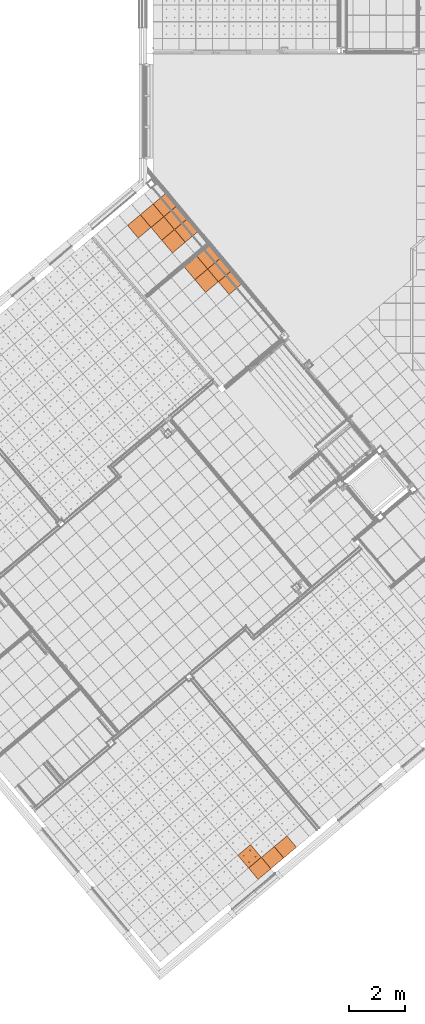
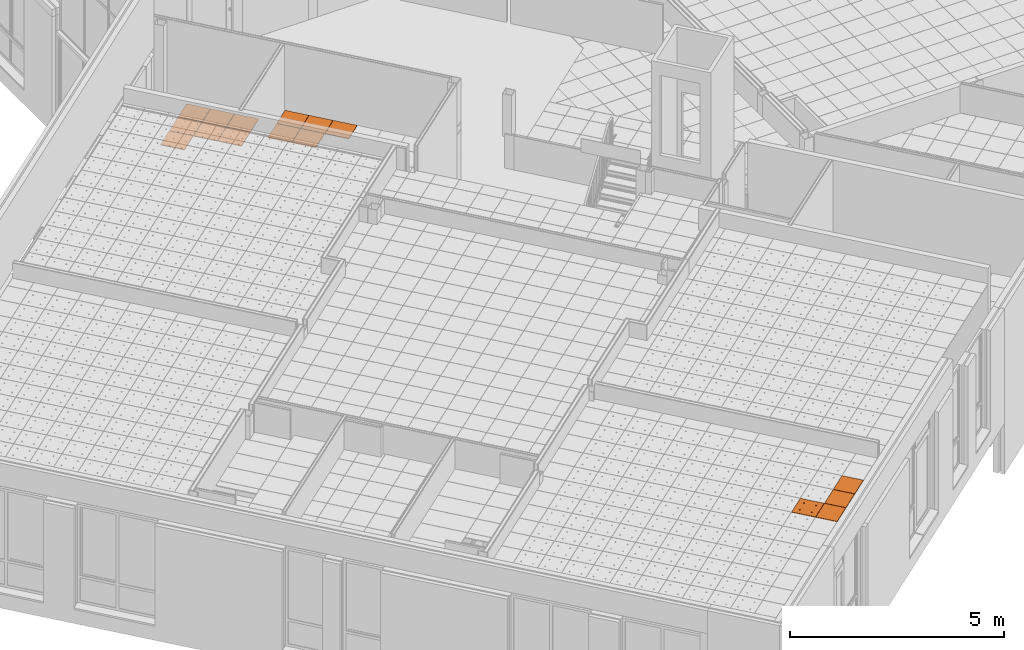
# One storey, part 179 of 338: 16 proxies, 3 elements without a shape of their own.
"""IFC2X3 building model written with IfcOpenShell, lengths in millimetres."""

from ifc_helpers import new_model, entity, si_unit, converted_unit, derived_unit, money_unit, direction, frame, origin_with_axes, place, context, subcontext, project, spatial, faceted_brep, source, transform, mapped, material, type_object, type_shapes, element, aggregate, save


model = new_model("IFC2X3")

# Units and contexts
model_context = context("Model", 3, precision=0.01, world=origin_with_axes(), true_north=direction((0.0, 1.0)))
plan_context = context("Plan", 3, precision=0.01, world=origin_with_axes(), true_north=direction((0.0, 1.0)))
body_context = subcontext(model_context, "Body", "Model", "MODEL_VIEW")
ifc_project = project(units=[si_unit("LENGTHUNIT", "METRE", prefix="MILLI"), si_unit("AREAUNIT", "SQUARE_METRE"), si_unit("VOLUMEUNIT", "CUBIC_METRE"), converted_unit("PLANEANGLEUNIT", "DEGREE", entity("IfcPlaneAngleMeasure", 0.0174532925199), si_unit("PLANEANGLEUNIT", "RADIAN"), dimensions=[0, 0, 0, 0, 0, 0, 0]), money_unit("EUR"), converted_unit("TIMEUNIT", "Year", entity("IfcTimeMeasure", 31556926.0), si_unit("TIMEUNIT", "SECOND"), dimensions=[0, 0, 1, 0, 0, 0, 0]), si_unit("MASSUNIT", "GRAM", prefix="KILO"), si_unit("THERMODYNAMICTEMPERATUREUNIT", "DEGREE_CELSIUS"), si_unit("LUMINOUSINTENSITYUNIT", "LUMEN"), si_unit("ENERGYUNIT", "JOULE", prefix="MEGA"), derived_unit("THERMALCONDUCTANCEUNIT", [(si_unit("POWERUNIT", "WATT"), 1), (si_unit("LENGTHUNIT", "METRE"), -1), (si_unit("THERMODYNAMICTEMPERATUREUNIT", "KELVIN"), -1)]), derived_unit("SPECIFICHEATCAPACITYUNIT", [(si_unit("ENERGYUNIT", "JOULE"), 1), (si_unit("MASSUNIT", "GRAM", prefix="KILO"), -1), (si_unit("THERMODYNAMICTEMPERATUREUNIT", "KELVIN"), -1)]), derived_unit("MASSDENSITYUNIT", [(si_unit("MASSUNIT", "GRAM", prefix="KILO"), 1), (si_unit("VOLUMEUNIT", "CUBIC_METRE"), -1)])], contexts=[model_context, plan_context])

# Site, building, storey
site_placement = place(None, origin_with_axes())
site = spatial("IfcSite", under=ifc_project, at=site_placement, Name="Fortuinstraat Woensdrecht", CompositionType="ELEMENT")
building_placement = place(site_placement, origin_with_axes())
building = spatial("IfcBuilding", under=site, at=building_placement, Name="IKC Fortuna", CompositionType="ELEMENT")
storey_placement = place(building_placement, origin_with_axes())
storey = spatial("IfcBuildingStorey", under=building, at=storey_placement, Name="00 begane grond", CompositionType="ELEMENT", Elevation=0.0)

# Covering, proxy
covering_type = type_object("IfcCoveringType", Name="Curtain Wall Type", PredefinedType="CEILING")
covering_1_placement = place(storey_placement, frame((15150.6418133, -6622.13986243, 4660.0), z_axis=(0.0, 0.0, 1.0), x_axis=(1.0, 0.0, 0.0)))
covering_1 = element("IfcCovering", 1, at=covering_1_placement, inside=storey, type_object=covering_type, Name="45_Plafondafwerking_P01", PredefinedType="CEILING")
ifc_material = material(Name="Gipsplaat")
building_element_proxy_type_1 = type_object("IfcBuildingElementProxyType", Name="Main Panel 600 x 600 x 20", PredefinedType="NOTDEFINED")
shared_shape_1 = source(origin_with_axes(), body_context, "Body", "Brep", [
    faceted_brep([(2.49999999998, 2.49999999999, -10.0), (300.0, 2.49999999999, -10.0), (300.0, 2.49999999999, 10.0), (2.49999999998, 2.49999999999, 10.0), (2.49999999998, 300.0, -10.0), (2.49999999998, 597.5, -10.0), (300.0, 597.5, -10.0), (597.5, 597.5, -10.0), (597.5, 300.0, -10.0), (597.5, 2.49999999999, -10.0), (166.25, 450.06232995, -10.0), (165.79423259, 452.64711538, -10.0), (164.896546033, 455.11348892, -10.0), (163.58421608, 457.38651108, -10.0), (161.897117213, 459.39711721, -10.0), (159.886511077, 461.08421608, -10.0), (157.613488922, 462.39654603, -10.0), (155.147115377, 463.29423259, -10.0), (152.562329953, 463.75, -10.0), (149.937670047, 463.75, -10.0), (147.352884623, 463.29423259, -10.0), (144.886511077, 462.39654603, -10.0), (142.613488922, 461.08421608, -10.0), (140.602882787, 459.39711721, -10.0), (138.91578392, 457.38651108, -10.0), (137.603453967, 455.11348892, -10.0), (136.705767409, 452.64711538, -10.0), (136.25, 450.06232995, -10.0), (136.25, 448.75, -10.0), (136.25, 447.43767005, -10.0), (136.705767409, 444.85288462, -10.0), (137.603453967, 442.38651108, -10.0), (138.91578392, 440.11348892, -10.0), (140.602882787, 438.10288279, -10.0), (142.613488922, 436.41578392, -10.0), (144.886511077, 435.10345397, -10.0), (147.352884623, 434.20576741, -10.0), (149.937670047, 433.75, -10.0), (152.562329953, 433.75, -10.0), (155.147115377, 434.20576741, -10.0), (157.613488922, 435.10345397, -10.0), (159.886511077, 436.41578392, -10.0), (161.897117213, 438.10288279, -10.0), (163.58421608, 440.11348892, -10.0), (164.896546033, 442.38651108, -10.0), (165.79423259, 444.85288462, -10.0), (166.25, 447.43767005, -10.0), (463.75, 450.06232995, -10.0), (463.29423259, 452.64711538, -10.0), (462.396546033, 455.11348892, -10.0), (461.08421608, 457.38651108, -10.0), (459.397117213, 459.39711721, -10.0), (457.386511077, 461.08421608, -10.0), (455.113488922, 462.39654603, -10.0), (452.647115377, 463.29423259, -10.0), (450.062329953, 463.75, -10.0), (447.437670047, 463.75, -10.0), (444.852884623, 463.29423259, -10.0), (442.386511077, 462.39654603, -10.0), (440.113488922, 461.08421608, -10.0), (438.102882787, 459.39711721, -10.0), (436.41578392, 457.38651108, -10.0), (435.103453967, 455.11348892, -10.0), (434.205767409, 452.64711538, -10.0), (433.75, 450.06232995, -10.0), (433.75, 448.75, -10.0), (433.75, 447.43767005, -10.0), (434.205767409, 444.85288462, -10.0), (435.103453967, 442.38651108, -10.0), (436.41578392, 440.11348892, -10.0), (438.102882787, 438.10288279, -10.0), (440.113488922, 436.41578392, -10.0), (442.386511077, 435.10345397, -10.0), (444.852884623, 434.20576741, -10.0), (447.437670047, 433.75, -10.0), (450.062329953, 433.75, -10.0), (452.647115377, 434.20576741, -10.0), (455.113488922, 435.10345397, -10.0), (457.386511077, 436.41578392, -10.0), (459.397117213, 438.10288279, -10.0), (461.08421608, 440.11348892, -10.0), (462.396546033, 442.38651108, -10.0), (463.29423259, 444.85288462, -10.0), (463.75, 447.43767005, -10.0), (463.75, 152.56232995, -10.0), (463.29423259, 155.14711538, -10.0), (462.396546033, 157.61348892, -10.0), (461.08421608, 159.88651108, -10.0), (459.397117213, 161.89711721, -10.0), (457.386511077, 163.58421608, -10.0), (455.113488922, 164.89654603, -10.0), (452.647115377, 165.79423259, -10.0), (450.062329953, 166.25, -10.0), (447.437670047, 166.25, -10.0), (444.852884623, 165.79423259, -10.0), (442.386511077, 164.89654603, -10.0), (440.113488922, 163.58421608, -10.0), (438.102882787, 161.89711721, -10.0), (436.41578392, 159.88651108, -10.0), (435.103453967, 157.61348892, -10.0), (434.205767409, 155.14711538, -10.0), (433.75, 152.56232995, -10.0), (433.75, 151.25, -10.0), (433.75, 149.93767005, -10.0), (434.205767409, 147.35288462, -10.0), (435.103453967, 144.88651108, -10.0), (436.41578392, 142.61348892, -10.0), (438.102882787, 140.60288279, -10.0), (440.113488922, 138.91578392, -10.0), (442.386511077, 137.60345397, -10.0), (444.852884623, 136.70576741, -10.0), (447.437670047, 136.25, -10.0), (450.062329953, 136.25, -10.0), (452.647115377, 136.70576741, -10.0), (455.113488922, 137.60345397, -10.0), (457.386511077, 138.91578392, -10.0), (459.397117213, 140.60288279, -10.0), (461.08421608, 142.61348892, -10.0), (462.396546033, 144.88651108, -10.0), (463.29423259, 147.35288462, -10.0), (463.75, 149.93767005, -10.0), (166.25, 152.56232995, -10.0), (165.79423259, 155.14711538, -10.0), (164.896546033, 157.61348892, -10.0), (163.58421608, 159.88651108, -10.0), (161.897117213, 161.89711721, -10.0), (159.886511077, 163.58421608, -10.0), (157.613488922, 164.89654603, -10.0), (155.147115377, 165.79423259, -10.0), (152.562329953, 166.25, -10.0), (149.937670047, 166.25, -10.0), (147.352884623, 165.79423259, -10.0), (144.886511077, 164.89654603, -10.0), (142.613488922, 163.58421608, -10.0), (140.602882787, 161.89711721, -10.0), (138.91578392, 159.88651108, -10.0), (137.603453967, 157.61348892, -10.0), (136.705767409, 155.14711538, -10.0), (136.25, 152.56232995, -10.0), (136.25, 151.25, -10.0), (136.25, 149.93767005, -10.0), (136.705767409, 147.35288462, -10.0), (137.603453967, 144.88651108, -10.0), (138.91578392, 142.61348892, -10.0), (140.602882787, 140.60288279, -10.0), (142.613488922, 138.91578392, -10.0), (144.886511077, 137.60345397, -10.0), (147.352884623, 136.70576741, -10.0), (149.937670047, 136.25, -10.0), (152.562329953, 136.25, -10.0), (155.147115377, 136.70576741, -10.0), (157.613488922, 137.60345397, -10.0), (159.886511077, 138.91578392, -10.0), (161.897117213, 140.60288279, -10.0), (163.58421608, 142.61348892, -10.0), (164.896546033, 144.88651108, -10.0), (165.79423259, 147.35288462, -10.0), (166.25, 149.93767005, -10.0), (597.5, 2.49999999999, 10.0), (597.5, 300.0, 10.0), (597.5, 597.5, 10.0), (300.0, 597.5, 10.0), (2.49999999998, 597.5, 10.0), (2.49999999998, 300.0, 10.0), (166.25, 450.06232995, 10.0), (166.25, 447.43767005, 10.0), (165.79423259, 444.85288462, 10.0), (164.896546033, 442.38651108, 10.0), (163.58421608, 440.11348892, 10.0), (161.897117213, 438.10288279, 10.0), (159.886511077, 436.41578392, 10.0), (157.613488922, 435.10345397, 10.0), (155.147115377, 434.20576741, 10.0), (152.562329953, 433.75, 10.0), (149.937670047, 433.75, 10.0), (147.352884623, 434.20576741, 10.0), (144.886511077, 435.10345397, 10.0), (142.613488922, 436.41578392, 10.0), (140.602882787, 438.10288279, 10.0), (138.91578392, 440.11348892, 10.0), (137.603453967, 442.38651108, 10.0), (136.705767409, 444.85288462, 10.0), (136.25, 447.43767005, 10.0), (136.25, 448.75, 10.0), (136.25, 450.06232995, 10.0), (136.705767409, 452.64711538, 10.0), (137.603453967, 455.11348892, 10.0), (138.91578392, 457.38651108, 10.0), (140.602882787, 459.39711721, 10.0), (142.613488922, 461.08421608, 10.0), (144.886511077, 462.39654603, 10.0), (147.352884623, 463.29423259, 10.0), (149.937670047, 463.75, 10.0), (152.562329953, 463.75, 10.0), (155.147115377, 463.29423259, 10.0), (157.613488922, 462.39654603, 10.0), (159.886511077, 461.08421608, 10.0), (161.897117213, 459.39711721, 10.0), (163.58421608, 457.38651108, 10.0), (164.896546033, 455.11348892, 10.0), (165.79423259, 452.64711538, 10.0), (463.75, 450.06232995, 10.0), (463.75, 447.43767005, 10.0), (463.29423259, 444.85288462, 10.0), (462.396546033, 442.38651108, 10.0), (461.08421608, 440.11348892, 10.0), (459.397117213, 438.10288279, 10.0), (457.386511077, 436.41578392, 10.0), (455.113488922, 435.10345397, 10.0), (452.647115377, 434.20576741, 10.0), (450.062329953, 433.75, 10.0), (447.437670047, 433.75, 10.0), (444.852884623, 434.20576741, 10.0), (442.386511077, 435.10345397, 10.0), (440.113488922, 436.41578392, 10.0), (438.102882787, 438.10288279, 10.0), (436.41578392, 440.11348892, 10.0), (435.103453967, 442.38651108, 10.0), (434.205767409, 444.85288462, 10.0), (433.75, 447.43767005, 10.0), (433.75, 448.75, 10.0), (433.75, 450.06232995, 10.0), (434.205767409, 452.64711538, 10.0), (435.103453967, 455.11348892, 10.0), (436.41578392, 457.38651108, 10.0), (438.102882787, 459.39711721, 10.0), (440.113488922, 461.08421608, 10.0), (442.386511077, 462.39654603, 10.0), (444.852884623, 463.29423259, 10.0), (447.437670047, 463.75, 10.0), (450.062329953, 463.75, 10.0), (452.647115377, 463.29423259, 10.0), (455.113488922, 462.39654603, 10.0), (457.386511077, 461.08421608, 10.0), (459.397117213, 459.39711721, 10.0), (461.08421608, 457.38651108, 10.0), (462.396546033, 455.11348892, 10.0), (463.29423259, 452.64711538, 10.0), (463.75, 152.56232995, 10.0), (463.75, 149.93767005, 10.0), (463.29423259, 147.35288462, 10.0), (462.396546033, 144.88651108, 10.0), (461.08421608, 142.61348892, 10.0), (459.397117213, 140.60288279, 10.0), (457.386511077, 138.91578392, 10.0), (455.113488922, 137.60345397, 10.0), (452.647115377, 136.70576741, 10.0), (450.062329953, 136.25, 10.0), (447.437670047, 136.25, 10.0), (444.852884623, 136.70576741, 10.0), (442.386511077, 137.60345397, 10.0), (440.113488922, 138.91578392, 10.0), (438.102882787, 140.60288279, 10.0), (436.41578392, 142.61348892, 10.0), (435.103453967, 144.88651108, 10.0), (434.205767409, 147.35288462, 10.0), (433.75, 149.93767005, 10.0), (433.75, 151.25, 10.0), (433.75, 152.56232995, 10.0), (434.205767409, 155.14711538, 10.0), (435.103453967, 157.61348892, 10.0), (436.41578392, 159.88651108, 10.0), (438.102882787, 161.89711721, 10.0), (440.113488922, 163.58421608, 10.0), (442.386511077, 164.89654603, 10.0), (444.852884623, 165.79423259, 10.0), (447.437670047, 166.25, 10.0), (450.062329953, 166.25, 10.0), (452.647115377, 165.79423259, 10.0), (455.113488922, 164.89654603, 10.0), (457.386511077, 163.58421608, 10.0), (459.397117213, 161.89711721, 10.0), (461.08421608, 159.88651108, 10.0), (462.396546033, 157.61348892, 10.0), (463.29423259, 155.14711538, 10.0), (166.25, 152.56232995, 10.0), (166.25, 149.93767005, 10.0), (165.79423259, 147.35288462, 10.0), (164.896546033, 144.88651108, 10.0), (163.58421608, 142.61348892, 10.0), (161.897117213, 140.60288279, 10.0), (159.886511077, 138.91578392, 10.0), (157.613488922, 137.60345397, 10.0), (155.147115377, 136.70576741, 10.0), (152.562329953, 136.25, 10.0), (149.937670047, 136.25, 10.0), (147.352884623, 136.70576741, 10.0), (144.886511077, 137.60345397, 10.0), (142.613488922, 138.91578392, 10.0), (140.602882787, 140.60288279, 10.0), (138.91578392, 142.61348892, 10.0), (137.603453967, 144.88651108, 10.0), (136.705767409, 147.35288462, 10.0), (136.25, 149.93767005, 10.0), (136.25, 151.25, 10.0), (136.25, 152.56232995, 10.0), (136.705767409, 155.14711538, 10.0), (137.603453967, 157.61348892, 10.0), (138.91578392, 159.88651108, 10.0), (140.602882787, 161.89711721, 10.0), (142.613488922, 163.58421608, 10.0), (144.886511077, 164.89654603, 10.0), (147.352884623, 165.79423259, 10.0), (149.937670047, 166.25, 10.0), (152.562329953, 166.25, 10.0), (155.147115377, 165.79423259, 10.0), (157.613488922, 164.89654603, 10.0), (159.886511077, 163.58421608, 10.0), (161.897117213, 161.89711721, 10.0), (163.58421608, 159.88651108, 10.0), (164.896546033, 157.61348892, 10.0), (165.79423259, 155.14711538, 10.0)], [[[0, 1, 2, 3]], [[0, 4, 5, 6, 7, 8, 9, 1], [10, 11, 12, 13, 14, 15, 16, 17, 18, 19, 20, 21, 22, 23, 24, 25, 26, 27, 28, 29, 30, 31, 32, 33, 34, 35, 36, 37, 38, 39, 40, 41, 42, 43, 44, 45, 46], [47, 48, 49, 50, 51, 52, 53, 54, 55, 56, 57, 58, 59, 60, 61, 62, 63, 64, 65, 66, 67, 68, 69, 70, 71, 72, 73, 74, 75, 76, 77, 78, 79, 80, 81, 82, 83], [84, 85, 86, 87, 88, 89, 90, 91, 92, 93, 94, 95, 96, 97, 98, 99, 100, 101, 102, 103, 104, 105, 106, 107, 108, 109, 110, 111, 112, 113, 114, 115, 116, 117, 118, 119, 120], [121, 122, 123, 124, 125, 126, 127, 128, 129, 130, 131, 132, 133, 134, 135, 136, 137, 138, 139, 140, 141, 142, 143, 144, 145, 146, 147, 148, 149, 150, 151, 152, 153, 154, 155, 156, 157]], [[1, 9, 158, 2]], [[3, 2, 158, 159, 160, 161, 162, 163], [164, 165, 166, 167, 168, 169, 170, 171, 172, 173, 174, 175, 176, 177, 178, 179, 180, 181, 182, 183, 184, 185, 186, 187, 188, 189, 190, 191, 192, 193, 194, 195, 196, 197, 198, 199, 200], [201, 202, 203, 204, 205, 206, 207, 208, 209, 210, 211, 212, 213, 214, 215, 216, 217, 218, 219, 220, 221, 222, 223, 224, 225, 226, 227, 228, 229, 230, 231, 232, 233, 234, 235, 236, 237], [238, 239, 240, 241, 242, 243, 244, 245, 246, 247, 248, 249, 250, 251, 252, 253, 254, 255, 256, 257, 258, 259, 260, 261, 262, 263, 264, 265, 266, 267, 268, 269, 270, 271, 272, 273, 274], [275, 276, 277, 278, 279, 280, 281, 282, 283, 284, 285, 286, 287, 288, 289, 290, 291, 292, 293, 294, 295, 296, 297, 298, 299, 300, 301, 302, 303, 304, 305, 306, 307, 308, 309, 310, 311]], [[4, 0, 3, 163]], [[5, 4, 163, 162]], [[6, 5, 162, 161]], [[7, 6, 161, 160]], [[8, 7, 160, 159]], [[9, 8, 159, 158]], [[11, 10, 164, 200]], [[12, 11, 200, 199]], [[13, 12, 199, 198]], [[14, 13, 198, 197]], [[15, 14, 197, 196]], [[16, 15, 196, 195]], [[17, 16, 195, 194]], [[18, 17, 194, 193]], [[19, 18, 193, 192]], [[20, 19, 192, 191]], [[21, 20, 191, 190]], [[22, 21, 190, 189]], [[23, 22, 189, 188]], [[24, 23, 188, 187]], [[25, 24, 187, 186]], [[26, 25, 186, 185]], [[27, 26, 185, 184]], [[28, 27, 184, 183]], [[29, 28, 183, 182]], [[30, 29, 182, 181]], [[31, 30, 181, 180]], [[32, 31, 180, 179]], [[33, 32, 179, 178]], [[34, 33, 178, 177]], [[35, 34, 177, 176]], [[36, 35, 176, 175]], [[37, 36, 175, 174]], [[38, 37, 174, 173]], [[39, 38, 173, 172]], [[40, 39, 172, 171]], [[41, 40, 171, 170]], [[42, 41, 170, 169]], [[43, 42, 169, 168]], [[44, 43, 168, 167]], [[45, 44, 167, 166]], [[46, 45, 166, 165]], [[10, 46, 165, 164]], [[48, 47, 201, 237]], [[49, 48, 237, 236]], [[50, 49, 236, 235]], [[51, 50, 235, 234]], [[52, 51, 234, 233]], [[53, 52, 233, 232]], [[54, 53, 232, 231]], [[55, 54, 231, 230]], [[56, 55, 230, 229]], [[57, 56, 229, 228]], [[58, 57, 228, 227]], [[59, 58, 227, 226]], [[60, 59, 226, 225]], [[61, 60, 225, 224]], [[62, 61, 224, 223]], [[63, 62, 223, 222]], [[64, 63, 222, 221]], [[65, 64, 221, 220]], [[66, 65, 220, 219]], [[67, 66, 219, 218]], [[68, 67, 218, 217]], [[69, 68, 217, 216]], [[70, 69, 216, 215]], [[71, 70, 215, 214]], [[72, 71, 214, 213]], [[73, 72, 213, 212]], [[74, 73, 212, 211]], [[75, 74, 211, 210]], [[76, 75, 210, 209]], [[77, 76, 209, 208]], [[78, 77, 208, 207]], [[79, 78, 207, 206]], [[80, 79, 206, 205]], [[81, 80, 205, 204]], [[82, 81, 204, 203]], [[83, 82, 203, 202]], [[47, 83, 202, 201]], [[85, 84, 238, 274]], [[86, 85, 274, 273]], [[87, 86, 273, 272]], [[88, 87, 272, 271]], [[89, 88, 271, 270]], [[90, 89, 270, 269]], [[91, 90, 269, 268]], [[92, 91, 268, 267]], [[93, 92, 267, 266]], [[94, 93, 266, 265]], [[95, 94, 265, 264]], [[96, 95, 264, 263]], [[97, 96, 263, 262]], [[98, 97, 262, 261]], [[99, 98, 261, 260]], [[100, 99, 260, 259]], [[101, 100, 259, 258]], [[102, 101, 258, 257]], [[103, 102, 257, 256]], [[104, 103, 256, 255]], [[105, 104, 255, 254]], [[106, 105, 254, 253]], [[107, 106, 253, 252]], [[108, 107, 252, 251]], [[109, 108, 251, 250]], [[110, 109, 250, 249]], [[111, 110, 249, 248]], [[112, 111, 248, 247]], [[113, 112, 247, 246]], [[114, 113, 246, 245]], [[115, 114, 245, 244]], [[116, 115, 244, 243]], [[117, 116, 243, 242]], [[118, 117, 242, 241]], [[119, 118, 241, 240]], [[120, 119, 240, 239]], [[84, 120, 239, 238]], [[122, 121, 275, 311]], [[123, 122, 311, 310]], [[124, 123, 310, 309]], [[125, 124, 309, 308]], [[126, 125, 308, 307]], [[127, 126, 307, 306]], [[128, 127, 306, 305]], [[129, 128, 305, 304]], [[130, 129, 304, 303]], [[131, 130, 303, 302]], [[132, 131, 302, 301]], [[133, 132, 301, 300]], [[134, 133, 300, 299]], [[135, 134, 299, 298]], [[136, 135, 298, 297]], [[137, 136, 297, 296]], [[138, 137, 296, 295]], [[139, 138, 295, 294]], [[140, 139, 294, 293]], [[141, 140, 293, 292]], [[142, 141, 292, 291]], [[143, 142, 291, 290]], [[144, 143, 290, 289]], [[145, 144, 289, 288]], [[146, 145, 288, 287]], [[147, 146, 287, 286]], [[148, 147, 286, 285]], [[149, 148, 285, 284]], [[150, 149, 284, 283]], [[151, 150, 283, 282]], [[152, 151, 282, 281]], [[153, 152, 281, 280]], [[154, 153, 280, 279]], [[155, 154, 279, 278]], [[156, 155, 278, 277]], [[157, 156, 277, 276]], [[121, 157, 276, 275]]]),
])
type_shapes(building_element_proxy_type_1, [shared_shape_1])
proxy_1_placement = place(covering_1_placement, frame((2132.82512204, -6127.64207355, 0.0), z_axis=(0.0, 0.0, 1.0), x_axis=(1.0, 0.0, 0.0)))
proxy_1 = element("IfcBuildingElementProxy", 2, at=proxy_1_placement, type_object=building_element_proxy_type_1, material=ifc_material, Name="__600x724 Rockfon Krios", context=body_context, shape_type="MappedRepresentation", body=[
    mapped(shared_shape_1, transform((36.9769427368, 422.649625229, 0.0), x_axis=(-0.766044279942, -0.642787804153, 0.0), y_axis=(0.642787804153, -0.766044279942, 0.0), z_axis=(0.0, 0.0, 1.0))),
])

# Covering, proxies
covering_2_placement = place(storey_placement, frame((13600.915258, 7795.68497331, 2810.0), z_axis=(0.0, 0.0, 1.0), x_axis=(1.0, 0.0, 0.0)))
covering_2 = element("IfcCovering", 3, at=covering_2_placement, inside=storey, type_object=covering_type, Name="45_Plafondafwerking_P02 gec", PredefinedType="CEILING")
building_element_proxy_type_2 = type_object("IfcBuildingElementProxyType", Name="Distinct Panel 600 x 600 x 20", PredefinedType="NOTDEFINED")
shared_shape_2 = source(origin_with_axes(), body_context, "Body", "Brep", [
    faceted_brep([(-597.499994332, 2.50000201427, -10.0), (-597.499994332, 2.50000201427, 10.0), (-597.499997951, 597.499994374, 10.0), (-597.499997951, 597.499994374, -10.0), (-2.50001005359, 2.49999600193, -10.0), (-2.50001005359, 2.49999600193, 10.0), (-2.49999596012, 597.499989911, 10.0), (-2.49999596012, 597.499989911, -10.0)], [[[0, 1, 2, 3]], [[4, 5, 1, 0]], [[1, 5, 6, 2]], [[3, 2, 6, 7]], [[0, 3, 7, 4]], [[7, 6, 5, 4]]]),
])
proxy_2_placement = place(covering_2_placement, frame((-279.144296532, 2074.88732954, 0.0), z_axis=(0.0, 0.0, 1.0), x_axis=(1.0, 0.0, 0.0)))
proxy_2 = element("IfcBuildingElementProxy", 4, at=proxy_2_placement, type_object=building_element_proxy_type_2, material=ifc_material, Name="__Panel-D", context=body_context, shape_type="MappedRepresentation", body=[
    mapped(shared_shape_2, transform((-422.649621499, 36.9769853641, 0.0), x_axis=(-0.766044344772, -0.642787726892, 0.0), y_axis=(0.642787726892, -0.766044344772, 0.0), z_axis=(0.0, 0.0, 1.0))),
])
proxy_3_placement = place(covering_2_placement, frame((951.827582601, 1541.30675195, 0.0), z_axis=(0.0, 0.0, 1.0), x_axis=(1.0, 0.0, 0.0)))
proxy_3 = element("IfcBuildingElementProxy", 5, at=proxy_3_placement, type_object=building_element_proxy_type_2, material=ifc_material, Name="__Panel-D", context=body_context, shape_type="MappedRepresentation", body=[
    mapped(shared_shape_2, transform((-422.649621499, 36.9769853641, 0.0), x_axis=(-0.766044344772, -0.642787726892, 0.0), y_axis=(0.642787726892, -0.766044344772, 0.0), z_axis=(0.0, 0.0, 1.0))),
])
shared_shape_3 = source(origin_with_axes(), body_context, "Body", "Brep", [
    faceted_brep([(-597.500003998, 2.50001005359, -10.0), (-597.500003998, 2.50001005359, 10.0), (-597.499997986, 597.499994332, 10.0), (-597.499997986, 597.499994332, -10.0), (-2.50001008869, 2.4999959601, -10.0), (-2.50001008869, 2.4999959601, 10.0), (-2.50000562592, 597.499997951, 10.0), (-2.50000562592, 597.499997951, -10.0)], [[[0, 1, 2, 3]], [[4, 5, 1, 0]], [[1, 5, 6, 2]], [[3, 2, 6, 7]], [[0, 3, 7, 4]], [[7, 6, 5, 4]]]),
])
proxy_4_placement = place(covering_2_placement, frame((180.482310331, 2460.55996567, 0.0), z_axis=(0.0, 0.0, 1.0), x_axis=(1.0, 0.0, 0.0)))
proxy_4 = element("IfcBuildingElementProxy", 6, at=proxy_4_placement, type_object=building_element_proxy_type_2, material=ifc_material, Name="__Panel-D", context=body_context, shape_type="MappedRepresentation", body=[
    mapped(shared_shape_3, transform((-422.649621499, 36.9769853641, 0.0), x_axis=(-0.766044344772, -0.642787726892, 0.0), y_axis=(0.642787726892, -0.766044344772, 0.0), z_axis=(0.0, 0.0, 1.0))),
])
proxy_5_placement = place(covering_2_placement, frame((566.154946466, 2000.93335881, 0.0), z_axis=(0.0, 0.0, 1.0), x_axis=(1.0, 0.0, 0.0)))
proxy_5 = element("IfcBuildingElementProxy", 7, at=proxy_5_placement, type_object=building_element_proxy_type_2, material=ifc_material, Name="__Panel-D", context=body_context, shape_type="MappedRepresentation", body=[
    mapped(shared_shape_3, transform((-422.649621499, 36.9769853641, 0.0), x_axis=(-0.766044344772, -0.642787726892, 0.0), y_axis=(0.642787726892, -0.766044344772, 0.0), z_axis=(0.0, 0.0, 1.0))),
])

# Covering, proxy
covering_3_placement = place(storey_placement, frame((15581.2998521, 5435.5548951, 3210.0), z_axis=(0.0, 0.0, 1.0), x_axis=(1.0, 0.0, 0.0)))
covering_3 = element("IfcCovering", 8, at=covering_3_placement, inside=storey, type_object=covering_type, Name="45_Plafondafwerking_P02 v", PredefinedType="CEILING")
proxy_6_placement = place(covering_3_placement, frame((160.482595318, 2484.39435085, 0.0), z_axis=(0.0, 0.0, 1.0), x_axis=(1.0, 0.0, 0.0)))
proxy_6 = element("IfcBuildingElementProxy", 9, at=proxy_6_placement, type_object=building_element_proxy_type_2, material=ifc_material, Name="__Panel-D", context=body_context, shape_type="MappedRepresentation", body=[
    mapped(shared_shape_3, transform((-422.649621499, 36.9769853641, 0.0), x_axis=(-0.766044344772, -0.642787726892, 0.0), y_axis=(0.642787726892, -0.766044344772, 0.0), z_axis=(0.0, 0.0, 1.0))),
])

# Proxy
building_element_proxy_type_3 = type_object("IfcBuildingElementProxyType", Name="Distinct Panel 575 x 600 x 20", PredefinedType="NOTDEFINED")
shared_shape_4 = source(origin_with_axes(), body_context, "Body", "Brep", [
    faceted_brep([(-572.749491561, 2.4999915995, -10.0), (-572.749491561, 2.4999915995, 10.0), (-572.749492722, 597.50000725, 10.0), (-572.749492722, 597.50000725, -10.0), (-2.49999882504, 2.49999206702, -10.0), (-2.49999882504, 2.49999206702, 10.0), (-2.49999998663, 597.500007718, 10.0), (-2.49999998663, 597.500007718, -10.0)], [[[0, 1, 2, 3]], [[4, 5, 1, 0]], [[1, 5, 6, 2]], [[3, 2, 6, 7]], [[0, 3, 7, 4]], [[7, 6, 5, 4]]]),
])
proxy_7_placement = place(covering_2_placement, frame((1016.30155707, 2378.65133111, 0.0), z_axis=(0.0, 0.0, 1.0), x_axis=(1.0, 0.0, 0.0)))
proxy_7 = element("IfcBuildingElementProxy", 10, at=proxy_7_placement, type_object=building_element_proxy_type_3, material=ifc_material, Name="__Panel-D", context=body_context, shape_type="MappedRepresentation", body=[
    mapped(shared_shape_4, transform((-413.169625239, 44.9316492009, 0.0), x_axis=(-0.766044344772, -0.642787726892, 0.0), y_axis=(0.642787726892, -0.766044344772, 0.0), z_axis=(0.0, 0.0, 1.0))),
])

proxy_8_placement = place(covering_2_placement, frame((1401.9741932, 1919.02472425, 0.0), z_axis=(0.0, 0.0, 1.0), x_axis=(1.0, 0.0, 0.0)))
proxy_8 = element("IfcBuildingElementProxy", 11, at=proxy_8_placement, type_object=building_element_proxy_type_3, material=ifc_material, Name="__Panel-D", context=body_context, shape_type="MappedRepresentation", body=[
    mapped(shared_shape_4, transform((-413.169625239, 44.9316492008, 0.0), x_axis=(-0.766044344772, -0.642787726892, 0.0), y_axis=(0.642787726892, -0.766044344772, 0.0), z_axis=(0.0, 0.0, 1.0))),
])

proxy_9_placement = place(covering_2_placement, frame((630.628920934, 2838.27793797, 0.0), z_axis=(0.0, 0.0, 1.0), x_axis=(1.0, 0.0, 0.0)))
proxy_9 = element("IfcBuildingElementProxy", 12, at=proxy_9_placement, type_object=building_element_proxy_type_3, material=ifc_material, Name="__Panel-D", context=body_context, shape_type="MappedRepresentation", body=[
    mapped(shared_shape_4, transform((-413.169625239, 44.9316492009, 0.0), x_axis=(-0.766044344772, -0.642787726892, 0.0), y_axis=(0.642787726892, -0.766044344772, 0.0), z_axis=(0.0, 0.0, 1.0))),
])

aggregate(covering_2, [proxy_4, proxy_2, proxy_5, proxy_7, proxy_8, proxy_3, proxy_9])

proxy_10_placement = place(covering_3_placement, frame((610.629374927, 2862.11246496, 0.0), z_axis=(0.0, 0.0, 1.0), x_axis=(1.0, 0.0, 0.0)))
proxy_10 = element("IfcBuildingElementProxy", 13, at=proxy_10_placement, type_object=building_element_proxy_type_3, material=ifc_material, Name="__Panel-D", context=body_context, shape_type="MappedRepresentation", body=[
    mapped(shared_shape_4, transform((-413.169794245, 44.9315073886, 0.0), x_axis=(-0.766044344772, -0.642787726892, 0.0), y_axis=(0.642787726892, -0.766044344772, 0.0), z_axis=(0.0, 0.0, 1.0))),
])

shared_shape_5 = source(origin_with_axes(), body_context, "Body", "Brep", [
    faceted_brep([(-572.749937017, 2.49998063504, -10.0), (-572.749937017, 2.49998063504, 10.0), (-572.749929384, 597.500002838, 10.0), (-572.749929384, 597.500002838, -10.0), (-2.50000245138, 2.50000238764, -10.0), (-2.50000245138, 2.50000238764, 10.0), (-2.50000122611, 597.499997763, 10.0), (-2.50000122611, 597.499997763, -10.0)], [[[0, 1, 2, 3]], [[4, 5, 1, 0]], [[1, 5, 6, 2]], [[3, 2, 6, 7]], [[0, 3, 7, 4]], [[7, 6, 5, 4]]]),
])
type_shapes(building_element_proxy_type_3, [shared_shape_4, shared_shape_5])
proxy_11_placement = place(covering_3_placement, frame((996.302011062, 2402.48585809, 0.0), z_axis=(0.0, 0.0, 1.0), x_axis=(1.0, 0.0, 0.0)))
proxy_11 = element("IfcBuildingElementProxy", 14, at=proxy_11_placement, type_object=building_element_proxy_type_3, material=ifc_material, Name="__Panel-D", context=body_context, shape_type="MappedRepresentation", body=[
    mapped(shared_shape_5, transform((-413.169794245, 44.9315073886, 0.0), x_axis=(-0.766044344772, -0.642787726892, 0.0), y_axis=(0.642787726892, -0.766044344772, 0.0), z_axis=(0.0, 0.0, 1.0))),
])

proxy_12_placement = place(covering_3_placement, frame((224.956739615, 3321.73907251, 0.0), z_axis=(0.0, 0.0, 1.0), x_axis=(1.0, 0.0, 0.0)))
proxy_12 = element("IfcBuildingElementProxy", 15, at=proxy_12_placement, type_object=building_element_proxy_type_3, material=ifc_material, Name="__Panel-D", context=body_context, shape_type="MappedRepresentation", body=[
    mapped(shared_shape_5, transform((-413.169795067, 44.9315066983, 0.0), x_axis=(-0.766044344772, -0.642787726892, 0.0), y_axis=(0.642787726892, -0.766044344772, 0.0), z_axis=(0.0, 0.0, 1.0))),
])

shared_shape_6 = source(origin_with_axes(), body_context, "Body", "Brep", [
    faceted_brep([(-597.500003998, 2.50001005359, -10.0), (-597.500003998, 2.50001005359, 10.0), (-597.499997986, 597.499994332, 10.0), (-597.499997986, 597.499994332, -10.0), (-2.50001008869, 2.4999959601, -10.0), (-2.50001008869, 2.4999959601, 10.0), (-2.50000562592, 597.499997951, 10.0), (-2.50000562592, 597.499997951, -10.0)], [[[0, 1, 2, 3]], [[4, 5, 1, 0]], [[1, 5, 6, 2]], [[3, 2, 6, 7]], [[0, 3, 7, 4]], [[7, 6, 5, 4]]]),
])
type_shapes(building_element_proxy_type_2, [shared_shape_2, shared_shape_3, shared_shape_6])
proxy_13_placement = place(covering_3_placement, frame((-225.190040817, 2944.02095771, 0.0), z_axis=(0.0, 0.0, 1.0), x_axis=(1.0, 0.0, 0.0)))
proxy_13 = element("IfcBuildingElementProxy", 16, at=proxy_13_placement, type_object=building_element_proxy_type_2, material=ifc_material, Name="__Panel-D", context=body_context, shape_type="MappedRepresentation", body=[
    mapped(shared_shape_6, transform((-422.649621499, 36.9769853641, 0.0), x_axis=(-0.766044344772, -0.642787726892, 0.0), y_axis=(0.642787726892, -0.766044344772, 0.0), z_axis=(0.0, 0.0, 1.0))),
])

aggregate(covering_3, [proxy_11, proxy_6, proxy_12, proxy_10, proxy_13])

building_element_proxy_type_4 = type_object("IfcBuildingElementProxyType", Name="600 x 538 x 20", PredefinedType="NOTDEFINED")
shared_shape_7 = source(origin_with_axes(), body_context, "Body", "Brep", [
    faceted_brep([(2.49999356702, 2.5000047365, -10.0), (597.499998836, 2.49999810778, -10.0), (597.499998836, 2.49999810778, 10.0), (2.49999356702, 2.5000047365, 10.0), (2.49999991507, 535.002599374, -10.0), (597.500005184, 535.002592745, -10.0), (597.500005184, 535.002592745, 10.0), (2.49999991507, 535.002599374, 10.0)], [[[0, 1, 2, 3]], [[0, 4, 5, 1]], [[1, 5, 6, 2]], [[3, 2, 6, 7]], [[4, 0, 3, 7]], [[5, 4, 7, 6]]]),
])
type_shapes(building_element_proxy_type_4, [shared_shape_7])
proxy_14_placement = place(covering_1_placement, frame((3417.66465614, -5791.98538737, 0.0), z_axis=(0.0, 0.0, 1.0), x_axis=(1.0, 0.0, 0.0)))
proxy_14 = element("IfcBuildingElementProxy", 17, at=proxy_14_placement, type_object=building_element_proxy_type_4, material=ifc_material, Name="__600x613 Rockfon Krios", context=body_context, shape_type="MappedRepresentation", body=[
    mapped(shared_shape_7, transform((57.0632270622, 398.711736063, 0.0), x_axis=(-0.766044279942, -0.642787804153, 0.0), y_axis=(0.642787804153, -0.766044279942, 0.0), z_axis=(0.0, 0.0, 1.0))),
])

proxy_15_placement = place(covering_1_placement, frame((2498.41152021, -6563.33075235, 0.0), z_axis=(0.0, 0.0, 1.0), x_axis=(1.0, 0.0, 0.0)))
proxy_15 = element("IfcBuildingElementProxy", 18, at=proxy_15_placement, type_object=building_element_proxy_type_4, material=ifc_material, Name="__600x666 Rockfon Krios", context=body_context, shape_type="MappedRepresentation", body=[
    mapped(shared_shape_7, transform((57.0632270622, 398.711736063, 0.0), x_axis=(-0.766044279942, -0.642787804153, 0.0), y_axis=(0.642787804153, -0.766044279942, 0.0), z_axis=(0.0, 0.0, 1.0))),
])

proxy_16_placement = place(covering_1_placement, frame((2958.03808817, -6177.65806986, 0.0), z_axis=(0.0, 0.0, 1.0), x_axis=(1.0, 0.0, 0.0)))
proxy_16 = element("IfcBuildingElementProxy", 19, at=proxy_16_placement, type_object=building_element_proxy_type_4, material=ifc_material, Name="__600x698 Rockfon Krios", context=body_context, shape_type="MappedRepresentation", body=[
    mapped(shared_shape_7, transform((57.0632270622, 398.711736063, 0.0), x_axis=(-0.766044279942, -0.642787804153, 0.0), y_axis=(0.642787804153, -0.766044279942, 0.0), z_axis=(0.0, 0.0, 1.0))),
])

aggregate(covering_1, [proxy_14, proxy_15, proxy_16, proxy_1])

save(model, "model.ifc")
